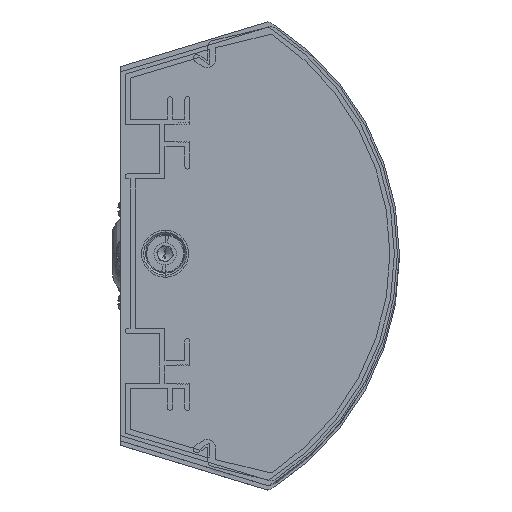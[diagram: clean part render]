
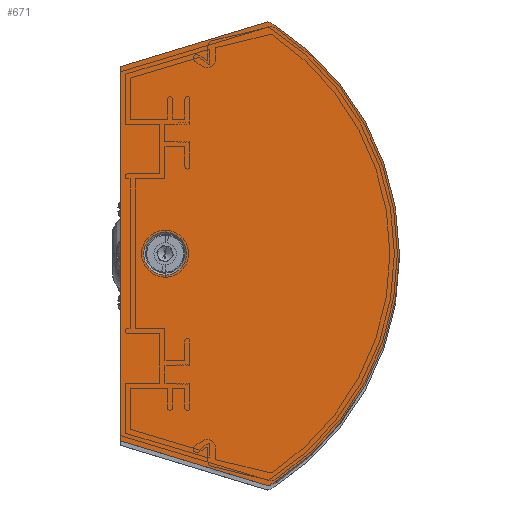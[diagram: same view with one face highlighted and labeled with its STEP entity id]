
A CAD part, top view. The second image highlights one B-rep face of the part: STEP entity #671.
In plain terms, the highlighted planar face has unit normal (0, 0, 1) as drawn and (0, 0, -1) by its records, which use the part's own axes.
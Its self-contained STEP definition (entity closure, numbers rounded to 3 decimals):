
#207 = FACE_OUTER_BOUND ( 'NONE', #32555, .T. ) ;
#366 = DIRECTION ( 'NONE',  ( 0., 0., -1. ) ) ;
#671 = ADVANCED_FACE ( 'NONE', ( #8425, #207 ), #11206, .F. ) ;
#685 = VERTEX_POINT ( 'NONE', #32705 ) ;
#751 = DIRECTION ( 'NONE',  ( 1., 0., 0. ) ) ;
#1549 = VECTOR ( 'NONE', #23232, 1000. ) ;
#1967 = DIRECTION ( 'NONE',  ( 1., 0., 0. ) ) ;
#2094 = LINE ( 'NONE', #12549, #1549 ) ;
#2443 = DIRECTION ( 'NONE',  ( 0., 0., 1. ) ) ;
#2727 = AXIS2_PLACEMENT_3D ( 'NONE', #15025, #2443, #7676 ) ;
#3177 = DIRECTION ( 'NONE',  ( -1., 0., 0. ) ) ;
#3372 = VERTEX_POINT ( 'NONE', #26095 ) ;
#4087 = AXIS2_PLACEMENT_3D ( 'NONE', #30709, #366, #3177 ) ;
#4266 = ORIENTED_EDGE ( 'NONE', *, *, #32892, .F. ) ;
#4391 = CARTESIAN_POINT ( 'NONE',  ( 61.746, 14.658, 0. ) ) ;
#4463 = VERTEX_POINT ( 'NONE', #20887 ) ;
#4653 = DIRECTION ( 'NONE',  ( 0., 0., 1. ) ) ;
#5367 = EDGE_CURVE ( 'NONE', #26524, #4463, #13051, .T. ) ;
#5436 = CARTESIAN_POINT ( 'NONE',  ( 61.746, 7.086, 0. ) ) ;
#5948 = CARTESIAN_POINT ( 'NONE',  ( 108.203, 35.076, 0. ) ) ;
#6675 = CARTESIAN_POINT ( 'NONE',  ( 66.046, 14.658, 0. ) ) ;
#7063 = AXIS2_PLACEMENT_3D ( 'NONE', #24862, #11227, #751 ) ;
#7237 = EDGE_LOOP ( 'NONE', ( #14419, #34038 ) ) ;
#7647 = VECTOR ( 'NONE', #31939, 1000. ) ;
#7676 = DIRECTION ( 'NONE',  ( 1., 0., 0. ) ) ;
#8425 = FACE_BOUND ( 'NONE', #7237, .T. ) ;
#8541 = CARTESIAN_POINT ( 'NONE',  ( 99.291, 5.658, 0. ) ) ;
#9095 = ORIENTED_EDGE ( 'NONE', *, *, #24335, .F. ) ;
#10965 = ORIENTED_EDGE ( 'NONE', *, *, #18816, .F. ) ;
#11206 = PLANE ( 'NONE',  #21033 ) ;
#11227 = DIRECTION ( 'NONE',  ( 0., 0., 1. ) ) ;
#11369 = DIRECTION ( 'NONE',  ( 0., 0., 1. ) ) ;
#11386 = ORIENTED_EDGE ( 'NONE', *, *, #27769, .T. ) ;
#11423 = EDGE_CURVE ( 'NONE', #4463, #26524, #13548, .T. ) ;
#11994 = CARTESIAN_POINT ( 'NONE',  ( 107.246, 35.366, 0. ) ) ;
#12467 = CARTESIAN_POINT ( 'NONE',  ( 15.246, 35.366, 0. ) ) ;
#12549 = CARTESIAN_POINT ( 'NONE',  ( 15.289, 35.076, 0. ) ) ;
#13051 = CIRCLE ( 'NONE', #15856, 4.3 ) ;
#13548 = CIRCLE ( 'NONE', #4087, 4.3 ) ;
#14419 = ORIENTED_EDGE ( 'NONE', *, *, #11423, .F. ) ;
#15025 = CARTESIAN_POINT ( 'NONE',  ( 16.246, 35.366, 0. ) ) ;
#15209 = DIRECTION ( 'NONE',  ( 0., 0., -1. ) ) ;
#15856 = AXIS2_PLACEMENT_3D ( 'NONE', #4391, #15209, #20641 ) ;
#16447 = DIRECTION ( 'NONE',  ( 1., 0., 0. ) ) ;
#18816 = EDGE_CURVE ( 'NONE', #33601, #19957, #20992, .T. ) ;
#19075 = CARTESIAN_POINT ( 'NONE',  ( 107.246, 35.366, 0. ) ) ;
#19424 = CARTESIAN_POINT ( 'NONE',  ( 108.203, 35.076, 0. ) ) ;
#19957 = VERTEX_POINT ( 'NONE', #12467 ) ;
#20641 = DIRECTION ( 'NONE',  ( -1., 0., 0. ) ) ;
#20887 = CARTESIAN_POINT ( 'NONE',  ( 57.446, 14.658, 0. ) ) ;
#20992 = CIRCLE ( 'NONE', #7063, 1. ) ;
#21033 = AXIS2_PLACEMENT_3D ( 'NONE', #19075, #11369, #16447 ) ;
#21285 = CARTESIAN_POINT ( 'NONE',  ( 99.291, 5.658, 0. ) ) ;
#22084 = VERTEX_POINT ( 'NONE', #8541 ) ;
#23232 = DIRECTION ( 'NONE',  ( 0.29, -0.957, 0. ) ) ;
#23314 = ORIENTED_EDGE ( 'NONE', *, *, #23814, .T. ) ;
#23501 = VERTEX_POINT ( 'NONE', #5948 ) ;
#23814 = EDGE_CURVE ( 'NONE', #22084, #25413, #29498, .T. ) ;
#24335 = EDGE_CURVE ( 'NONE', #3372, #25413, #2094, .T. ) ;
#24587 = CARTESIAN_POINT ( 'NONE',  ( 24.201, 5.658, 0. ) ) ;
#24689 = ORIENTED_EDGE ( 'NONE', *, *, #25957, .F. ) ;
#24862 = CARTESIAN_POINT ( 'NONE',  ( 16.246, 35.366, 0. ) ) ;
#25413 = VERTEX_POINT ( 'NONE', #24587 ) ;
#25809 = DIRECTION ( 'NONE',  ( 1., 0., 0. ) ) ;
#25897 = DIRECTION ( 'NONE',  ( 0., 0., 1. ) ) ;
#25957 = EDGE_CURVE ( 'NONE', #19957, #3372, #31718, .T. ) ;
#26095 = CARTESIAN_POINT ( 'NONE',  ( 15.289, 35.076, 0. ) ) ;
#26524 = VERTEX_POINT ( 'NONE', #6675 ) ;
#27299 = AXIS2_PLACEMENT_3D ( 'NONE', #11994, #4653, #25809 ) ;
#27769 = EDGE_CURVE ( 'NONE', #23501, #22084, #32375, .T. ) ;
#28980 = VECTOR ( 'NONE', #29742, 1000. ) ;
#28984 = AXIS2_PLACEMENT_3D ( 'NONE', #5436, #25897, #1967 ) ;
#29498 = LINE ( 'NONE', #21285, #7647 ) ;
#29742 = DIRECTION ( 'NONE',  ( -0.29, -0.957, 0. ) ) ;
#29833 = ORIENTED_EDGE ( 'NONE', *, *, #33874, .F. ) ;
#30454 = CARTESIAN_POINT ( 'NONE',  ( 15.397, 35.894, 0. ) ) ;
#30709 = CARTESIAN_POINT ( 'NONE',  ( 61.746, 14.658, 0. ) ) ;
#31718 = CIRCLE ( 'NONE', #2727, 1. ) ;
#31745 = CIRCLE ( 'NONE', #27299, 1. ) ;
#31939 = DIRECTION ( 'NONE',  ( -1., 0., 0. ) ) ;
#32375 = LINE ( 'NONE', #19424, #28980 ) ;
#32555 = EDGE_LOOP ( 'NONE', ( #4266, #11386, #23314, #9095, #24689, #10965, #29833 ) ) ;
#32705 = CARTESIAN_POINT ( 'NONE',  ( 108.095, 35.894, 0. ) ) ;
#32892 = EDGE_CURVE ( 'NONE', #23501, #685, #31745, .T. ) ;
#33453 = CIRCLE ( 'NONE', #28984, 54.572 ) ;
#33601 = VERTEX_POINT ( 'NONE', #30454 ) ;
#33874 = EDGE_CURVE ( 'NONE', #685, #33601, #33453, .T. ) ;
#34038 = ORIENTED_EDGE ( 'NONE', *, *, #5367, .F. ) ;
